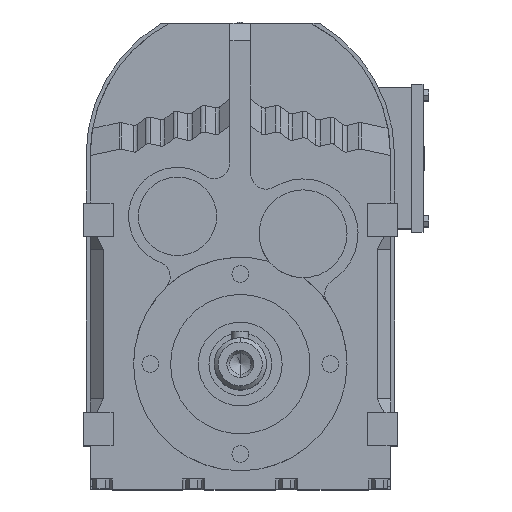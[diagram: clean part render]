
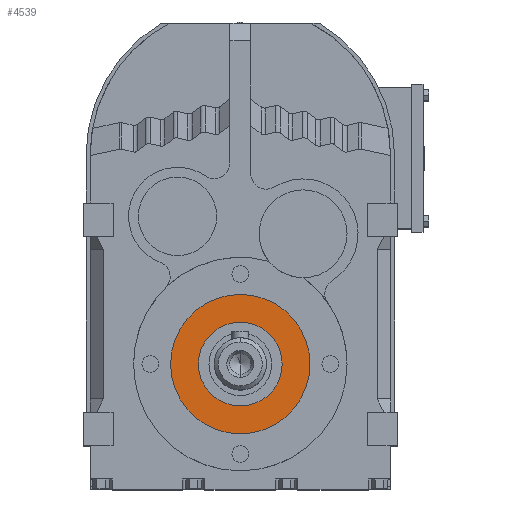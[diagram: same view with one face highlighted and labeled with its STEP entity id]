
A CAD part, top view. The second image highlights one B-rep face of the part: STEP entity #4539.
In plain terms, the highlighted planar face has unit normal (0, 0, 1).
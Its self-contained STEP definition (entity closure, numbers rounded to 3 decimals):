
#482 = CYLINDRICAL_SURFACE('',#483,33.3);
#483 = AXIS2_PLACEMENT_3D('',#484,#485,#486);
#484 = CARTESIAN_POINT('',(0.,-98.7,110.123));
#485 = DIRECTION('',(0.,0.,1.));
#486 = DIRECTION('',(1.,0.,0.));
#508 = CYLINDRICAL_SURFACE('',#509,33.3);
#509 = AXIS2_PLACEMENT_3D('',#510,#511,#512);
#510 = CARTESIAN_POINT('',(0.,-98.7,110.123));
#511 = DIRECTION('',(0.,0.,1.));
#512 = DIRECTION('',(1.,0.,0.));
#684 = EDGE_CURVE('',#685,#687,#689,.T.);
#685 = VERTEX_POINT('',#686);
#686 = CARTESIAN_POINT('',(-33.3,-98.7,91.5));
#687 = VERTEX_POINT('',#688);
#688 = CARTESIAN_POINT('',(33.3,-98.7,91.5));
#689 = SURFACE_CURVE('',#690,(#695,#701),.PCURVE_S1.);
#690 = CIRCLE('',#691,33.3);
#691 = AXIS2_PLACEMENT_3D('',#692,#693,#694);
#692 = CARTESIAN_POINT('',(0.,-98.7,91.5));
#693 = DIRECTION('',(0.,0.,1.));
#694 = DIRECTION('',(1.,0.,0.));
#695 = PCURVE('',#508,#696);
#696 = DEFINITIONAL_REPRESENTATION('',(#697),#700);
#697 = B_SPLINE_CURVE_WITH_KNOTS('',1,(#698,#699),.UNSPECIFIED.,.F.,.F.,
  (2,2),(3.142,6.283),.PIECEWISE_BEZIER_KNOTS.);
#698 = CARTESIAN_POINT('',(3.142,-18.623));
#699 = CARTESIAN_POINT('',(6.283,-18.623));
#700 = ( GEOMETRIC_REPRESENTATION_CONTEXT(2) 
PARAMETRIC_REPRESENTATION_CONTEXT() REPRESENTATION_CONTEXT('2D SPACE',''
  ) );
#701 = PCURVE('',#702,#707);
#702 = PLANE('',#703);
#703 = AXIS2_PLACEMENT_3D('',#704,#705,#706);
#704 = CARTESIAN_POINT('',(0.,-65.4,91.5));
#705 = DIRECTION('',(0.,0.,1.));
#706 = DIRECTION('',(1.,0.,0.));
#707 = DEFINITIONAL_REPRESENTATION('',(#708),#712);
#708 = CIRCLE('',#709,33.3);
#709 = AXIS2_PLACEMENT_2D('',#710,#711);
#710 = CARTESIAN_POINT('',(0.,-33.3));
#711 = DIRECTION('',(1.,0.));
#712 = ( GEOMETRIC_REPRESENTATION_CONTEXT(2) 
PARAMETRIC_REPRESENTATION_CONTEXT() REPRESENTATION_CONTEXT('2D SPACE',''
  ) );
#1075 = EDGE_CURVE('',#687,#685,#1076,.T.);
#1076 = SURFACE_CURVE('',#1077,(#1082,#1088),.PCURVE_S1.);
#1077 = CIRCLE('',#1078,33.3);
#1078 = AXIS2_PLACEMENT_3D('',#1079,#1080,#1081);
#1079 = CARTESIAN_POINT('',(0.,-98.7,91.5));
#1080 = DIRECTION('',(0.,0.,1.));
#1081 = DIRECTION('',(1.,0.,0.));
#1082 = PCURVE('',#482,#1083);
#1083 = DEFINITIONAL_REPRESENTATION('',(#1084),#1087);
#1084 = B_SPLINE_CURVE_WITH_KNOTS('',1,(#1085,#1086),.UNSPECIFIED.,.F.,
  .F.,(2,2),(0.,3.142),.PIECEWISE_BEZIER_KNOTS.);
#1085 = CARTESIAN_POINT('',(0.,-18.623));
#1086 = CARTESIAN_POINT('',(3.142,-18.623));
#1087 = ( GEOMETRIC_REPRESENTATION_CONTEXT(2) 
PARAMETRIC_REPRESENTATION_CONTEXT() REPRESENTATION_CONTEXT('2D SPACE',''
  ) );
#1088 = PCURVE('',#702,#1089);
#1089 = DEFINITIONAL_REPRESENTATION('',(#1090),#1094);
#1090 = CIRCLE('',#1091,33.3);
#1091 = AXIS2_PLACEMENT_2D('',#1092,#1093);
#1092 = CARTESIAN_POINT('',(0.,-33.3));
#1093 = DIRECTION('',(1.,0.));
#1094 = ( GEOMETRIC_REPRESENTATION_CONTEXT(2) 
PARAMETRIC_REPRESENTATION_CONTEXT() REPRESENTATION_CONTEXT('2D SPACE',''
  ) );
#4539 = ADVANCED_FACE('',(#4540,#4544),#702,.T.);
#4540 = FACE_BOUND('',#4541,.T.);
#4541 = EDGE_LOOP('',(#4542,#4543));
#4542 = ORIENTED_EDGE('',*,*,#1075,.T.);
#4543 = ORIENTED_EDGE('',*,*,#684,.T.);
#4544 = FACE_BOUND('',#4545,.T.);
#4545 = EDGE_LOOP('',(#4546,#4576));
#4546 = ORIENTED_EDGE('',*,*,#4547,.F.);
#4547 = EDGE_CURVE('',#4548,#4550,#4552,.T.);
#4548 = VERTEX_POINT('',#4549);
#4549 = CARTESIAN_POINT('',(20.,-98.7,91.5));
#4550 = VERTEX_POINT('',#4551);
#4551 = CARTESIAN_POINT('',(-20.,-98.7,91.5));
#4552 = SURFACE_CURVE('',#4553,(#4558,#4565),.PCURVE_S1.);
#4553 = CIRCLE('',#4554,20.);
#4554 = AXIS2_PLACEMENT_3D('',#4555,#4556,#4557);
#4555 = CARTESIAN_POINT('',(0.,-98.7,91.5));
#4556 = DIRECTION('',(0.,0.,1.));
#4557 = DIRECTION('',(1.,0.,0.));
#4558 = PCURVE('',#702,#4559);
#4559 = DEFINITIONAL_REPRESENTATION('',(#4560),#4564);
#4560 = CIRCLE('',#4561,20.);
#4561 = AXIS2_PLACEMENT_2D('',#4562,#4563);
#4562 = CARTESIAN_POINT('',(0.,-33.3));
#4563 = DIRECTION('',(1.,0.));
#4564 = ( GEOMETRIC_REPRESENTATION_CONTEXT(2) 
PARAMETRIC_REPRESENTATION_CONTEXT() REPRESENTATION_CONTEXT('2D SPACE',''
  ) );
#4565 = PCURVE('',#4566,#4571);
#4566 = CYLINDRICAL_SURFACE('',#4567,20.);
#4567 = AXIS2_PLACEMENT_3D('',#4568,#4569,#4570);
#4568 = CARTESIAN_POINT('',(0.,-98.7,110.123));
#4569 = DIRECTION('',(0.,0.,1.));
#4570 = DIRECTION('',(1.,0.,0.));
#4571 = DEFINITIONAL_REPRESENTATION('',(#4572),#4575);
#4572 = B_SPLINE_CURVE_WITH_KNOTS('',1,(#4573,#4574),.UNSPECIFIED.,.F.,
  .F.,(2,2),(0.,3.142),.PIECEWISE_BEZIER_KNOTS.);
#4573 = CARTESIAN_POINT('',(0.,-18.623));
#4574 = CARTESIAN_POINT('',(3.142,-18.623));
#4575 = ( GEOMETRIC_REPRESENTATION_CONTEXT(2) 
PARAMETRIC_REPRESENTATION_CONTEXT() REPRESENTATION_CONTEXT('2D SPACE',''
  ) );
#4576 = ORIENTED_EDGE('',*,*,#4577,.F.);
#4577 = EDGE_CURVE('',#4550,#4548,#4578,.T.);
#4578 = SURFACE_CURVE('',#4579,(#4584,#4591),.PCURVE_S1.);
#4579 = CIRCLE('',#4580,20.);
#4580 = AXIS2_PLACEMENT_3D('',#4581,#4582,#4583);
#4581 = CARTESIAN_POINT('',(0.,-98.7,91.5));
#4582 = DIRECTION('',(0.,0.,1.));
#4583 = DIRECTION('',(1.,0.,0.));
#4584 = PCURVE('',#702,#4585);
#4585 = DEFINITIONAL_REPRESENTATION('',(#4586),#4590);
#4586 = CIRCLE('',#4587,20.);
#4587 = AXIS2_PLACEMENT_2D('',#4588,#4589);
#4588 = CARTESIAN_POINT('',(0.,-33.3));
#4589 = DIRECTION('',(1.,0.));
#4590 = ( GEOMETRIC_REPRESENTATION_CONTEXT(2) 
PARAMETRIC_REPRESENTATION_CONTEXT() REPRESENTATION_CONTEXT('2D SPACE',''
  ) );
#4591 = PCURVE('',#4592,#4597);
#4592 = CYLINDRICAL_SURFACE('',#4593,20.);
#4593 = AXIS2_PLACEMENT_3D('',#4594,#4595,#4596);
#4594 = CARTESIAN_POINT('',(0.,-98.7,110.123));
#4595 = DIRECTION('',(0.,0.,1.));
#4596 = DIRECTION('',(1.,0.,0.));
#4597 = DEFINITIONAL_REPRESENTATION('',(#4598),#4601);
#4598 = B_SPLINE_CURVE_WITH_KNOTS('',1,(#4599,#4600),.UNSPECIFIED.,.F.,
  .F.,(2,2),(3.142,6.283),.PIECEWISE_BEZIER_KNOTS.);
#4599 = CARTESIAN_POINT('',(3.142,-18.623));
#4600 = CARTESIAN_POINT('',(6.283,-18.623));
#4601 = ( GEOMETRIC_REPRESENTATION_CONTEXT(2) 
PARAMETRIC_REPRESENTATION_CONTEXT() REPRESENTATION_CONTEXT('2D SPACE',''
  ) );
